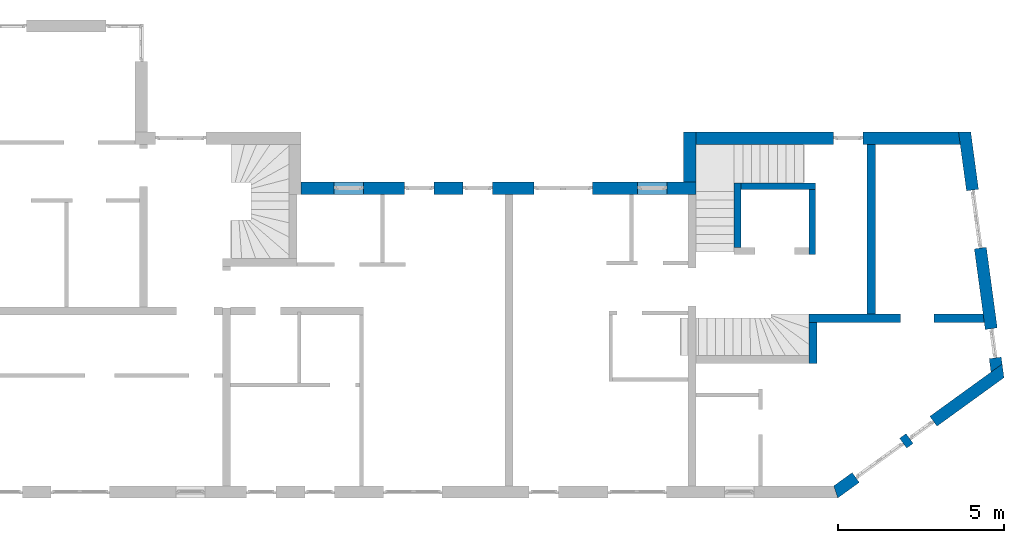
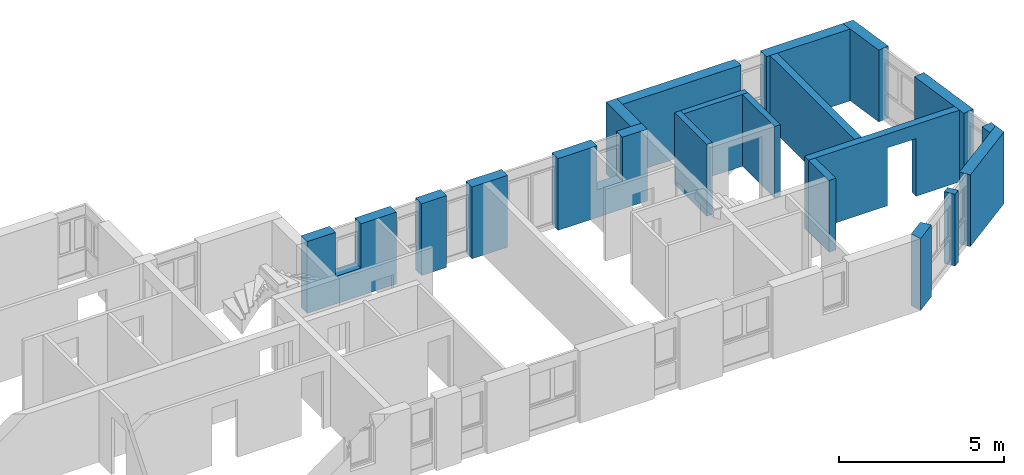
# One storey, part 3 of 42: 11 walls, 11 openings.
"""IFC2X3 building model written with IfcOpenShell, lengths in millimetres."""

from ifc_helpers import new_model, entity, si_unit, converted_unit, frame, frame_2d, origin, origin_with_axes, place, context, subcontext, project, spatial, polyline, rectangle, outline, extrude, material, layer, layer_set, layer_usage, element, save


model = new_model("IFC2X3")

# Units and contexts
model_context = context("Model", 3, precision=1e-05, world=origin())
body_context = subcontext(model_context, "Body", "Model", "MODEL_VIEW")
ifc_project = project(units=[si_unit("LENGTHUNIT", "METRE", prefix="MILLI"), converted_unit("PLANEANGLEUNIT", "DEGREE", entity("IfcPlaneAngleMeasure", 0.0174532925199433), si_unit("PLANEANGLEUNIT", "RADIAN"), dimensions=[0, 0, 0, 0, 0, 0, 0]), si_unit("AREAUNIT", "SQUARE_METRE"), si_unit("VOLUMEUNIT", "CUBIC_METRE")], contexts=[model_context])

# Building, storey
building_placement = place(None, origin())
building = spatial("IfcBuilding", under=ifc_project, at=building_placement, Name="Gebäude", CompositionType="ELEMENT")
storey_placement = place(building_placement, frame((0.0, 0.0, 2730.0), z_axis=(0.0, 0.0, 1.0), x_axis=(1.0, 0.0, 0.0)))
storey = spatial("IfcBuildingStorey", under=building, at=storey_placement, Name="OG.- Grundriss", CompositionType="ELEMENT", Elevation=2730.0)

# Wall, openings
ifc_material_1 = material(Name="Poroton")
ifc_layer_1 = layer(ifc_material_1, 364.9999999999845)
ifc_layer_set_1 = layer_set([ifc_layer_1])
ifc_layer_usage_1 = layer_usage(ifc_layer_set_1, "AXIS2", "POSITIVE", 0.0)
wall_1_placement = place(storey_placement, frame((180502.7928055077, 125274.8877315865, 0.0), z_axis=(0.0, 0.0, 1.0), x_axis=(0.8099951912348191, 0.5864365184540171, 0.0)))
wall_1 = element("IfcWallStandardCase", 1, at=wall_1_placement, inside=storey, material=ifc_layer_usage_1, Name="<Unnamed Element>", context=body_context, shape_type="SweptSolid", body=[
    extrude(outline(polyline([(0.0, 0.0), (6172.876154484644, 0.0), (6368.596706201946, 364.9999999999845), (118.2596121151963, 365.0000000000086), (0.0, 0.0)])), origin_with_axes(), (0.0, 0.0, 1.0), 2650.0),
])
opening_1_placement = place(wall_1_placement, frame((2800.000000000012, 3.205968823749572e-11, 0.0), z_axis=(0.0, 1.0, 0.0), x_axis=(0.0, 0.0, 1.0)))
element("IfcOpeningElement", 2, at=opening_1_placement, cuts=wall_1, Name="Fensteröffnung", ObjectType="Opening", context=body_context, shape_type="SweptSolid", body=[
    extrude(rectangle(XDim=2650.0, YDim=885.0, at=frame_2d((1325.0, 442.5), x_axis=(1.0, 0.0))), origin_with_axes(), (0.0, 0.0, 1.0), 365.0),
])
opening_2_placement = place(wall_1_placement, frame((799.9999999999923, 3.126388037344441e-12, 0.0), z_axis=(0.0, 1.0, 0.0), x_axis=(0.0, 0.0, 1.0)))
element("IfcOpeningElement", 3, at=opening_2_placement, cuts=wall_1, Name="Fensteröffnung", ObjectType="Opening", context=body_context, shape_type="SweptSolid", body=[
    extrude(rectangle(XDim=2650.0, YDim=1760.000000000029, at=frame_2d((1325.0, 880.0000000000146), x_axis=(1.0, 0.0))), origin_with_axes(), (0.0, 0.0, 1.0), 365.0),
])

ifc_material_2 = material(Name="Poroton")
ifc_layer_2 = layer(ifc_material_2, 365.0000000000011)
ifc_layer_set_2 = layer_set([ifc_layer_2])
ifc_layer_usage_2 = layer_usage(ifc_layer_set_2, "AXIS2", "POSITIVE", 0.0)
wall_2_placement = place(storey_placement, frame((185447.2761832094, 129305.31365621, 0.0), z_axis=(0.0, 0.0, 1.0), x_axis=(-0.1340451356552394, 0.9909752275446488, 0.0)))
wall_2 = element("IfcWallStandardCase", 4, at=wall_2_placement, inside=storey, material=ifc_layer_usage_2, Name="<Unnamed Element>", context=body_context, shape_type="SweptSolid", body=[
    extrude(outline(polyline([(0.0, 0.0), (7033.045713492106, 1.13686837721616e-13), (7082.417759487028, 365.0000000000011), (-195.7205517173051, 364.9999999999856), (0.0, 0.0)])), origin_with_axes(), (0.0, 0.0, 1.0), 2650.0),
])
opening_3_placement = place(wall_2_placement, frame((3543.045713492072, 5.684341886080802e-12, 0.0), z_axis=(0.0, 1.0, 0.0), x_axis=(0.0, 0.0, 1.0)))
element("IfcOpeningElement", 5, at=opening_3_placement, cuts=wall_2, Name="Fensteröffnung", ObjectType="Opening", context=body_context, shape_type="SweptSolid", body=[
    extrude(rectangle(XDim=2650.0, YDim=1760.0, at=frame_2d((1325.0, 880.0), x_axis=(1.0, 0.0))), origin_with_axes(), (0.0, 0.0, 1.0), 365.0),
])
opening_4_placement = place(wall_2_placement, frame((210.8363435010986, 8.885336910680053e-12, 0.0), z_axis=(0.0, 1.0, 0.0), x_axis=(0.0, 0.0, 1.0)))
element("IfcOpeningElement", 6, at=opening_4_placement, cuts=wall_2, Name="Fensteröffnung", ObjectType="Opening", context=body_context, shape_type="SweptSolid", body=[
    extrude(rectangle(XDim=2650.0, YDim=885.0000000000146, at=frame_2d((1325.0, 442.5000000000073), x_axis=(1.0, 0.0))), origin_with_axes(), (0.0, 0.0, 1.0), 365.0),
])

# Walls
ifc_material_3 = material(Name="Stb-Wand")
ifc_layer_3 = layer(ifc_material_3, 200.0)
ifc_layer_set_3 = layer_set([ifc_layer_3])
ifc_layer_usage_3 = layer_usage(ifc_layer_set_3, "AXIS2", "POSITIVE", 0.0)
wall_3_placement = place(storey_placement, frame((177587.7928067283, 132804.8877324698, 0.0), z_axis=(0.0, 0.0, 1.0), x_axis=(0.0, 1.0, 0.0)))
element("IfcWallStandardCase", 7, at=wall_3_placement, inside=storey, material=ifc_layer_usage_3, Name="<Unnamed Element>", context=body_context, shape_type="SweptSolid", body=[
    extrude(rectangle(XDim=1950.0, YDim=200.0, at=frame_2d((975.0, 100.0), x_axis=(1.0, 0.0))), origin_with_axes(), (0.0, 0.0, 1.0), 2650.0),
])
ifc_material_4 = material(Name="Stb-Wand")
ifc_layer_4 = layer(ifc_material_4, 200.0)
ifc_layer_set_4 = layer_set([ifc_layer_4])
ifc_layer_usage_4 = layer_usage(ifc_layer_set_4, "AXIS2", "POSITIVE", 0.0)
wall_4_placement = place(storey_placement, frame((177587.7928067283, 134554.8877324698, 0.0), z_axis=(0.0, 0.0, 1.0), x_axis=(1.0, 0.0, 0.0)))
element("IfcWallStandardCase", 8, at=wall_4_placement, inside=storey, material=ifc_layer_usage_4, Name="<Unnamed Element>", context=body_context, shape_type="SweptSolid", body=[
    extrude(rectangle(XDim=2250.0, YDim=200.0, at=frame_2d((1125.0, 100.0), x_axis=(1.0, 0.0))), origin_with_axes(), (0.0, 0.0, 1.0), 2650.0),
])
ifc_material_5 = material(Name="Stb-Wand")
ifc_layer_5 = layer(ifc_material_5, 200.0)
ifc_layer_set_5 = layer_set([ifc_layer_5])
ifc_layer_usage_5 = layer_usage(ifc_layer_set_5, "AXIS2", "POSITIVE", 0.0)
wall_5_placement = place(storey_placement, frame((179637.7928067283, 134554.8877324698, 0.0), z_axis=(0.0, 0.0, 1.0), x_axis=(0.0, -1.0, 0.0)))
element("IfcWallStandardCase", 9, at=wall_5_placement, inside=storey, material=ifc_layer_usage_5, Name="<Unnamed Element>", context=body_context, shape_type="SweptSolid", body=[
    extrude(rectangle(XDim=1950.0, YDim=200.0, at=frame_2d((975.0, 100.0), x_axis=(1.0, 0.0))), origin_with_axes(), (0.0, 0.0, 1.0), 2650.0),
])

# Wall, opening
ifc_material_6 = material(Name="Hlz")
ifc_layer_6 = layer(ifc_material_6, 250.0)
ifc_layer_set_6 = layer_set([ifc_layer_6])
ifc_layer_usage_6 = layer_usage(ifc_layer_set_6, "AXIS2", "POSITIVE", 0.0)
wall_6_placement = place(storey_placement, frame((184876.1109363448, 130804.8877324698, 0.0), z_axis=(0.0, 0.0, 1.0), x_axis=(-1.0, 0.0, 0.0)))
wall_6 = element("IfcWallStandardCase", 10, at=wall_6_placement, inside=storey, material=ifc_layer_usage_6, Name="<Unnamed Element>", context=body_context, shape_type="SweptSolid", body=[
    extrude(outline(polyline([(0.0, 0.0), (5238.31812961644, 0.0), (5238.31812961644, 250.0), (-33.81646985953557, 250.0), (0.0, 0.0)])), origin_with_axes(), (0.0, 0.0, 1.0), 2650.0),
])
opening_5_placement = place(wall_6_placement, frame((1478.31812961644, 0.0, 0.0), z_axis=(0.0, 1.0, 0.0), x_axis=(0.0, 0.0, 1.0)))
element("IfcOpeningElement", 11, at=opening_5_placement, cuts=wall_6, Name="Türöffnung", ObjectType="Opening", context=body_context, shape_type="SweptSolid", body=[
    extrude(rectangle(XDim=2135.0, YDim=1010.0, at=frame_2d((1067.5, 505.0), x_axis=(1.0, 0.0))), origin_with_axes(), (0.0, 0.0, 1.0), 250.0),
])

# Walls
ifc_material_7 = material(Name="Hlz")
ifc_layer_7 = layer(ifc_material_7, 250.0)
ifc_layer_set_7 = layer_set([ifc_layer_7])
ifc_layer_usage_7 = layer_usage(ifc_layer_set_7, "AXIS2", "POSITIVE", 0.0)
wall_7_placement = place(storey_placement, frame((181387.7928067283, 135909.8877324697, 0.0), z_axis=(0.0, 0.0, 1.0), x_axis=(0.0, -1.0, 0.0)))
element("IfcWallStandardCase", 12, at=wall_7_placement, inside=storey, material=ifc_layer_usage_7, Name="<Unnamed Element>", context=body_context, shape_type="SweptSolid", body=[
    extrude(rectangle(XDim=5104.999999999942, YDim=250.0, at=frame_2d((2552.499999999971, 125.0), x_axis=(1.0, 0.0))), origin_with_axes(), (0.0, 0.0, 1.0), 2650.0),
])
ifc_material_8 = material(Name="Poroton")
ifc_layer_8 = layer(ifc_material_8, 365.0000000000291)
ifc_layer_set_8 = layer_set([ifc_layer_8])
ifc_layer_usage_8 = layer_usage(ifc_layer_set_8, "AXIS2", "POSITIVE", 0.0)
wall_8_placement = place(storey_placement, frame((175872.7928067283, 136274.8877324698, 0.0), z_axis=(0.0, 0.0, 1.0), x_axis=(0.0, -1.0, 0.0)))
element("IfcWallStandardCase", 13, at=wall_8_placement, inside=storey, material=ifc_layer_usage_8, Name="<Unnamed Element>", context=body_context, shape_type="SweptSolid", body=[
    extrude(rectangle(XDim=1500.0, YDim=365.0000000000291, at=frame_2d((750.0, 182.5000000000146), x_axis=(1.0, 0.0))), origin_with_axes(), (0.0, 0.0, 1.0), 2650.0),
])

# Wall, opening
ifc_material_9 = material(Name="Poroton")
ifc_layer_9 = layer(ifc_material_9, 365.0000000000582)
ifc_layer_set_9 = layer_set([ifc_layer_9])
ifc_layer_usage_9 = layer_usage(ifc_layer_set_9, "AXIS2", "POSITIVE", 0.0)
wall_9_placement = place(storey_placement, frame((184136.2065758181, 136274.8877324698, 0.0), z_axis=(0.0, 0.0, 1.0), x_axis=(-1.0, 0.0, 0.0)))
wall_9 = element("IfcWallStandardCase", 14, at=wall_9_placement, inside=storey, material=ifc_layer_usage_9, Name="<Unnamed Element>", context=body_context, shape_type="SweptSolid", body=[
    extrude(outline(polyline([(0.0, 0.0), (7898.413769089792, 0.0), (7898.413769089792, 365.0000000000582), (-49.37204599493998, 365.0000000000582), (0.0, 0.0)])), origin_with_axes(), (0.0, 0.0, 1.0), 2650.0),
])
opening_6_placement = place(wall_9_placement, frame((2871.675959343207, 0.0, 0.0), z_axis=(0.0, 1.0, 0.0), x_axis=(0.0, 0.0, 1.0)))
element("IfcOpeningElement", 15, at=opening_6_placement, cuts=wall_9, Name="Fensteröffnung", ObjectType="Opening", context=body_context, shape_type="SweptSolid", body=[
    extrude(rectangle(XDim=2650.0, YDim=885.0, at=frame_2d((1325.0, 442.5), x_axis=(1.0, 0.0))), origin_with_axes(), (0.0, 0.0, 1.0), 365.0000000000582),
])

# Wall, openings
ifc_material_10 = material(Name="Poroton")
ifc_layer_10 = layer(ifc_material_10, 365.0000000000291)
ifc_layer_set_10 = layer_set([ifc_layer_10])
ifc_layer_usage_10 = layer_usage(ifc_layer_set_10, "AXIS2", "POSITIVE", 0.0)
wall_10_placement = place(storey_placement, frame((176237.7928067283, 134774.8877324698, 0.0), z_axis=(0.0, 0.0, 1.0), x_axis=(-1.0, 0.0, 0.0)))
wall_10 = element("IfcWallStandardCase", 16, at=wall_10_placement, inside=storey, material=ifc_layer_usage_10, Name="<Unnamed Element>", context=body_context, shape_type="SweptSolid", body=[
    extrude(rectangle(XDim=11869.99999999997, YDim=365.0000000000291, at=frame_2d((5934.999999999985, 182.5000000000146), x_axis=(1.0, 0.0))), origin_with_axes(), (0.0, 0.0, 1.0), 2650.0),
])
opening_7_placement = place(wall_10_placement, frame((7875.000000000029, 0.0, 0.0), z_axis=(0.0, 1.0, 0.0), x_axis=(0.0, 0.0, 1.0)))
element("IfcOpeningElement", 17, at=opening_7_placement, cuts=wall_10, Name="Fensteröffnung", ObjectType="Opening", context=body_context, shape_type="SweptSolid", body=[
    extrude(rectangle(XDim=2650.0, YDim=885.0, at=frame_2d((1325.0, 442.5), x_axis=(1.0, 0.0))), origin_with_axes(), (0.0, 0.0, 1.0), 365.0000000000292),
])
opening_8_placement = place(wall_10_placement, frame((6115.000000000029, 0.0, 0.0), z_axis=(0.0, 1.0, 0.0), x_axis=(0.0, 0.0, 1.0)))
element("IfcOpeningElement", 18, at=opening_8_placement, cuts=wall_10, Name="Fensteröffnung", ObjectType="Opening", context=body_context, shape_type="SweptSolid", body=[
    extrude(rectangle(XDim=2650.0, YDim=885.0, at=frame_2d((1325.0, 442.5), x_axis=(1.0, 0.0))), origin_with_axes(), (0.0, 0.0, 1.0), 365.0000000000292),
])
opening_9_placement = place(wall_10_placement, frame((9990.00000000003, 0.0, 1020.0), z_axis=(0.0, 1.0, 0.0), x_axis=(0.0, 0.0, 1.0)))
element("IfcOpeningElement", 19, at=opening_9_placement, cuts=wall_10, Name="Fensteröffnung", ObjectType="Opening", context=body_context, shape_type="SweptSolid", body=[
    extrude(rectangle(XDim=1630.0, YDim=885.0, at=frame_2d((815.0, 442.5), x_axis=(1.0, 0.0))), origin_with_axes(), (0.0, 0.0, 1.0), 365.0000000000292),
])
opening_10_placement = place(wall_10_placement, frame((3115.000000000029, 0.0, 0.0), z_axis=(0.0, 1.0, 0.0), x_axis=(0.0, 0.0, 1.0)))
element("IfcOpeningElement", 20, at=opening_10_placement, cuts=wall_10, Name="Fensteröffnung", ObjectType="Opening", context=body_context, shape_type="SweptSolid", body=[
    extrude(rectangle(XDim=2650.0, YDim=1760.0, at=frame_2d((1325.0, 880.0), x_axis=(1.0, 0.0))), origin_with_axes(), (0.0, 0.0, 1.0), 365.0000000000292),
])
opening_11_placement = place(wall_10_placement, frame((865.0000000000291, 0.0, 1020.0), z_axis=(0.0, 1.0, 0.0), x_axis=(0.0, 0.0, 1.0)))
element("IfcOpeningElement", 21, at=opening_11_placement, cuts=wall_10, Name="Fensteröffnung", ObjectType="Opening", context=body_context, shape_type="SweptSolid", body=[
    extrude(rectangle(XDim=1630.0, YDim=885.0, at=frame_2d((815.0, 442.5), x_axis=(1.0, 0.0))), origin_with_axes(), (0.0, 0.0, 1.0), 365.0000000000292),
])

# Wall
ifc_material_11 = material(Name="Hlz")
ifc_layer_11 = layer(ifc_material_11, 240.0)
ifc_layer_set_11 = layer_set([ifc_layer_11])
ifc_layer_usage_11 = layer_usage(ifc_layer_set_11, "AXIS2", "POSITIVE", 0.0)
wall_11_placement = place(storey_placement, frame((179877.7928067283, 129314.8877324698, 0.0), z_axis=(0.0, 0.0, 1.0), x_axis=(0.0, 1.0, 0.0)))
element("IfcWallStandardCase", 22, at=wall_11_placement, inside=storey, material=ifc_layer_usage_11, Name="<Unnamed Element>", context=body_context, shape_type="SweptSolid", body=[
    extrude(rectangle(XDim=1240.0, YDim=240.0, at=frame_2d((620.0, 120.0), x_axis=(1.0, 0.0))), origin_with_axes(), (0.0, 0.0, 1.0), 2650.0),
])

save(model, "model.ifc")
